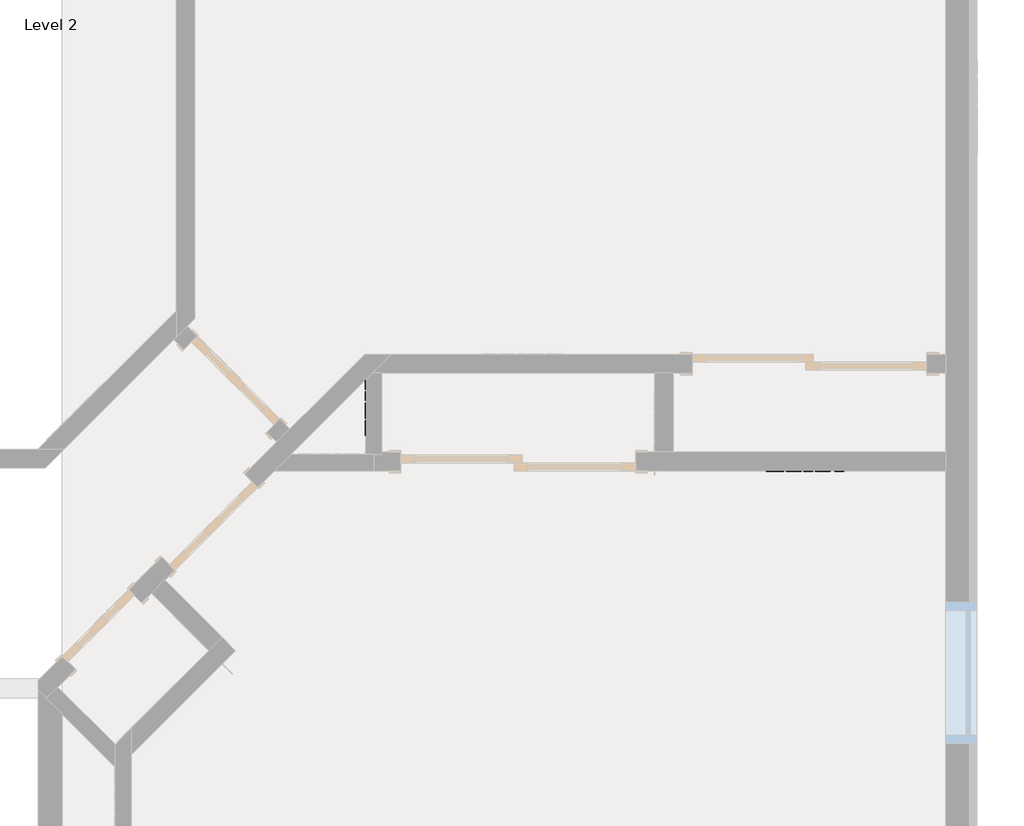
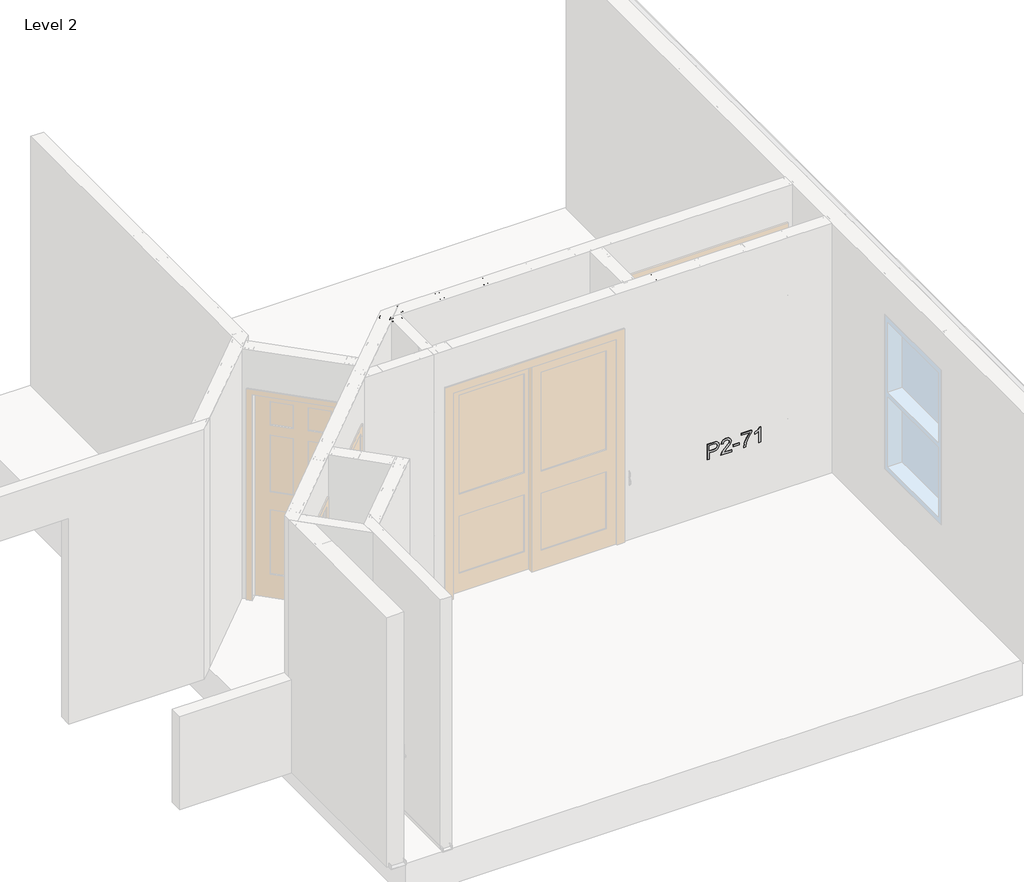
# One storey, part 41 of 46: 6 columns, 2 fasteners, 1 beam.
"""IFC4 building model written with IfcOpenShell, lengths in millimetres."""

from ifc_helpers import new_model, si_unit, point, frame, origin, place, context, project, spatial, circle_curve, ellipse_curve, trimmed, transform, mapped, element, save
from ifc_brep_helpers import plane_surface, extruded_surface, advanced_brep
from components import beam_350nf150_33_9bf1c67c, panellabel_18be6eab, panellabel_db9f150f

model = new_model("IFC4")

# Units and contexts
model_context = context("Model", 3, world=origin())
ifc_project = project(units=[si_unit("LENGTHUNIT", "METRE", prefix="MILLI")], contexts=[model_context])

# Site, building, storey
site = spatial("IfcSite", under=ifc_project)
building = spatial("IfcBuilding", under=site)
storey = spatial("IfcBuildingStorey", under=building, Name="Level 2", Elevation=3060.7)

# Beam
placement = place(None, origin())
beam_350nf150_33_shape = beam_350nf150_33_9bf1c67c(model_context)
element("IfcBeam", 1, ObjectType="BIMSF-SSMA-S : 350NF150-33", at=placement, inside=storey, context=model_context, shape_type="MappedRepresentation", body=[
    mapped(beam_350nf150_33_shape, transform((-5883.4515983, 10251.1207511, 3076.575), x_axis=(1.0000000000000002, 0.0, 0.0), y_axis=(0.0, 0.0, -1.0000000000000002), z_axis=(0.0, 1.0000000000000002, 0.0))),
])

# Columns
element("IfcColumn", 2, ObjectType="BIMSF-SSMA-S-Column : 350NF150-33", at=placement, inside=storey, context=model_context, shape_type="AdvancedBrep", body=[
    advanced_brep(
    [(-7039.3549045, 10251.1207511, 3061.5929687), (-6976.4931116, 10188.2589582, 3061.5929687), (-7003.43388, 10161.3181899, 3061.5929687), (-7007.4343478, 10165.3186576, 3061.5929687), (-7006.8104563, 10165.9425491, 3061.5929687), (-7003.43388, 10162.5659728, 3061.5929687), (-6977.7408946, 10188.2589582, 3061.5929687), (-7039.3549045, 10249.8729681, 3061.5929687), (-7065.0478899, 10224.1799827, 3061.5929687), (-7061.6713136, 10220.8034064, 3061.5929687), (-7062.2952051, 10220.1795149, 3061.5929687), (-7066.2956728, 10224.1799827, 3061.5929687), (-7039.3549045, 10251.1207511, 5523.6070313), (-6976.4931116, 10188.2589582, 5523.6070313), (-6998.9437519, 10210.7095985, 3671.1929688), (-7016.9042642, 10228.6701108, 3671.1929687), (-6998.9437519, 10210.7095985, 4890.3929687), (-7016.9042642, 10228.6701108, 4890.3929687), (-7003.43388, 10161.3181899, 5523.6070313), (-7007.4343478, 10165.3186576, 5523.6070313), (-7006.8104563, 10165.9425491, 5523.6070313), (-7003.43388, 10162.5659728, 5523.6070313), (-6977.7408946, 10188.2589582, 5523.6070313), (-7039.3549045, 10249.8729681, 5523.6070313), (-7017.5281557, 10228.0462193, 3671.1929687), (-6999.5676434, 10210.0857071, 3671.1929688), (-7017.5281557, 10228.0462193, 4890.3929687), (-6999.5676434, 10210.0857071, 4890.3929688), (-7065.0478899, 10224.1799827, 5523.6070313), (-7061.6713136, 10220.8034064, 5523.6070313), (-7062.2952051, 10220.1795149, 5523.6070313), (-7066.2956728, 10224.1799827, 5523.6070313)],
    [
        (0, 1),
        (1, 2),
        (2, 3),
        (3, 4),
        (4, 5),
        (5, 6),
        (6, 7),
        (7, 8),
        (8, 9),
        (9, 10),
        (10, 11),
        (11, 0),
        (0, 12),
        (12, 13),
        (13, 1),
        (14, 15, circle_curve(frame((-7007.9240081, 10219.6898547, 3671.1929688), z_axis=(-0.7071067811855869, -0.7071067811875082, 0.0), x_axis=(0.7071067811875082, -0.7071067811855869, 0.0)), 12.7)),
        (15, 14, circle_curve(frame((-7007.9240081, 10219.6898547, 3671.1929688), z_axis=(-0.7071067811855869, -0.7071067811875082, 0.0), x_axis=(0.7071067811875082, -0.7071067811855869, 0.0)), 12.7)),
        (16, 17, circle_curve(frame((-7007.9240081, 10219.6898547, 4890.3929687), z_axis=(-0.7071067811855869, -0.7071067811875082, 0.0), x_axis=(0.7071067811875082, -0.7071067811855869, 0.0)), 12.7)),
        (17, 16, circle_curve(frame((-7007.9240081, 10219.6898547, 4890.3929687), z_axis=(-0.7071067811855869, -0.7071067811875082, 0.0), x_axis=(0.7071067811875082, -0.7071067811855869, 0.0)), 12.7)),
        (13, 18),
        (18, 2),
        (18, 19),
        (19, 3),
        (19, 20),
        (20, 4),
        (20, 21),
        (21, 5),
        (21, 22),
        (22, 6),
        (22, 23),
        (23, 7),
        (24, 25, circle_curve(frame((-7008.5478995, 10219.0659632, 3671.1929687), z_axis=(0.7071067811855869, 0.7071067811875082, 0.0), x_axis=(0.7071067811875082, -0.7071067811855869, 0.0)), 12.7)),
        (25, 24, circle_curve(frame((-7008.5478995, 10219.0659632, 3671.1929688), z_axis=(0.7071067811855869, 0.7071067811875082, 0.0), x_axis=(0.7071067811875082, -0.7071067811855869, 0.0)), 12.7)),
        (26, 27, circle_curve(frame((-7008.5478995, 10219.0659632, 4890.3929687), z_axis=(0.7071067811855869, 0.7071067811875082, 0.0), x_axis=(0.7071067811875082, -0.7071067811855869, 0.0)), 12.7)),
        (27, 26, circle_curve(frame((-7008.5478995, 10219.0659632, 4890.3929687), z_axis=(0.7071067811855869, 0.7071067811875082, 0.0), x_axis=(0.7071067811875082, -0.7071067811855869, 0.0)), 12.7)),
        (23, 28),
        (28, 8),
        (28, 29),
        (29, 9),
        (29, 30),
        (30, 10),
        (30, 31),
        (31, 11),
        (31, 12),
        (24, 15),
        (14, 25),
        (26, 17),
        (16, 27),
    ],
    [
        plane_surface(frame((-7039.3549045, 10251.1207511, 3061.5929687), z_axis=(0.0, 0.0, -1.0000000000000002), x_axis=(0.7071067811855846, 0.7071067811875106, 0.0))),
        plane_surface(frame((-6976.4931116, 10188.2589582, 5523.6070313), z_axis=(0.7071067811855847, 0.7071067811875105, 0.0), x_axis=(0.0, 0.0, -1.0))),
        plane_surface(frame((-7003.43388, 10161.3181899, 5523.6070313), z_axis=(0.7071067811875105, -0.7071067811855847, 0.0), x_axis=(0.0, 0.0, -1.0))),
        plane_surface(frame((-7007.4343478, 10165.3186576, 5523.6070313), z_axis=(-0.7071067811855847, -0.7071067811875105, 0.0), x_axis=(0.0, 0.0, -1.0))),
        plane_surface(frame((-7006.8104563, 10165.9425491, 5523.6070313), z_axis=(-0.7071067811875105, 0.7071067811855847, 0.0), x_axis=(0.0, 0.0, -1.0))),
        plane_surface(frame((-7003.43388, 10162.5659728, 5523.6070313), z_axis=(0.7071067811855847, 0.7071067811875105, 0.0), x_axis=(0.0, 0.0, -1.0))),
        plane_surface(frame((-6977.7408946, 10188.2589582, 5523.6070313), z_axis=(-0.7071067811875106, 0.7071067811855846, 0.0), x_axis=(0.0, 0.0, -1.0))),
        plane_surface(frame((-7039.3549045, 10249.8729681, 5523.6070313), z_axis=(-0.7071067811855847, -0.7071067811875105, 0.0), x_axis=(0.0, 0.0, -1.0))),
        plane_surface(frame((-7065.0478899, 10224.1799827, 5523.6070313), z_axis=(0.7071067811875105, -0.7071067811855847, 0.0), x_axis=(0.0, 0.0, -1.0))),
        plane_surface(frame((-7061.6713136, 10220.8034064, 5523.6070313), z_axis=(0.7071067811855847, 0.7071067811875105, 0.0), x_axis=(0.0, 0.0, -1.0))),
        plane_surface(frame((-7062.2952051, 10220.1795149, 5523.6070313), z_axis=(0.7071067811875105, -0.7071067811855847, 0.0), x_axis=(0.0, 0.0, -1.0))),
        plane_surface(frame((-7066.2956728, 10224.1799827, 5523.6070313), z_axis=(-0.7071067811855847, -0.7071067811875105, 0.0), x_axis=(0.0, 0.0, -1.0))),
        plane_surface(frame((-7039.3549045, 10251.1207511, 5523.6070313), z_axis=(-0.7071067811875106, 0.7071067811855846, 0.0), x_axis=(0.0, 0.0, -1.0))),
        plane_surface(frame((-7039.3549045, 10251.1207511, 5523.6070313), z_axis=(0.0, 0.0, 1.0000000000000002), x_axis=(-0.7071067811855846, -0.7071067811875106, 0.0))),
        extruded_surface(trimmed(ellipse_curve(frame((-8762.3012312, 8465.3126315, 3671.1929688), z_axis=(0.7071067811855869, 0.7071067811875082, 0.0), x_axis=(0.7071067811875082, -0.7071067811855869, 0.0)), 12.7, 12.7), [point((-8771.2814873, 8474.2928876, 3671.1929688))], [point((-8753.3209751, 8456.3323754, 3671.1929688))], True, "CARTESIAN"), (-3481.8136779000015, -3481.8136779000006, 0.0), 4924.028124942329),
        extruded_surface(trimmed(ellipse_curve(frame((-8762.3012312, 8465.3126315, 3671.1929688), z_axis=(0.7071067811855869, 0.7071067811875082, 0.0), x_axis=(0.7071067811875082, -0.7071067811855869, 0.0)), 12.7, 12.7), [point((-8753.3209751, 8456.3323754, 3671.1929688))], [point((-8771.2814873, 8474.2928876, 3671.1929688))], True, "CARTESIAN"), (-3481.8136779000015, -3481.8136779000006, 0.0), 4924.028124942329),
        extruded_surface(trimmed(ellipse_curve(frame((-8762.3012312, 8465.3126315, 4890.3929687), z_axis=(0.7071067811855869, 0.7071067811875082, 0.0), x_axis=(0.7071067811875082, -0.7071067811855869, 0.0)), 12.7, 12.7), [point((-8771.2814873, 8474.2928876, 4890.3929687))], [point((-8753.3209751, 8456.3323754, 4890.3929687))], True, "CARTESIAN"), (-3481.8136779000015, -3481.8136779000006, 0.0), 4924.028124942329),
        extruded_surface(trimmed(ellipse_curve(frame((-8762.3012312, 8465.3126315, 4890.3929687), z_axis=(0.7071067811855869, 0.7071067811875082, 0.0), x_axis=(0.7071067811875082, -0.7071067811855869, 0.0)), 12.7, 12.7), [point((-8753.3209751, 8456.3323754, 4890.3929687))], [point((-8771.2814873, 8474.2928876, 4890.3929687))], True, "CARTESIAN"), (-3481.8136779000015, -3481.8136779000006, 0.0), 4924.028124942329),
    ],
    [
        (0, [[1, 2, 3, 4, 5, 6, 7, 8, 9, 10, 11, 12]]),
        (1, [[-1, 13, 14, 15], [16, 17], [18, 19]]),
        (2, [[-2, -15, 20, 21]]),
        (3, [[-3, -21, 22, 23]]),
        (4, [[-4, -23, 24, 25]]),
        (5, [[-5, -25, 26, 27]]),
        (6, [[-6, -27, 28, 29]]),
        (7, [[-7, -29, 30, 31], [32, 33], [34, 35]]),
        (8, [[-8, -31, 36, 37]]),
        (9, [[-9, -37, 38, 39]]),
        (10, [[-10, -39, 40, 41]]),
        (11, [[-11, -41, 42, 43]]),
        (12, [[-12, -43, 44, -13]]),
        (13, [[-14, -44, -42, -40, -38, -36, -30, -28, -26, -24, -22, -20]]),
        (14, [[45, -16, 46, -32]]),
        (15, [[-45, -33, -46, -17]]),
        (16, [[47, -18, 48, -34]]),
        (17, [[-47, -35, -48, -19]]),
    ],
),
])
element("IfcColumn", 3, ObjectType="BIMSF-SSMA-S-Column : 350NF150-33", at=placement, inside=storey, context=model_context, shape_type="AdvancedBrep", body=[
    advanced_brep(
    [(-6891.5618616, 10206.6707511, 3061.5929687), (-6891.5618616, 10295.5707511, 3061.5929687), (-6853.4618616, 10295.5707511, 3061.5929687), (-6853.4618616, 10289.9132353, 3061.5929687), (-6854.3441774, 10289.9132353, 3061.5929687), (-6854.3441774, 10294.6884353, 3061.5929687), (-6890.6795459, 10294.6884353, 3061.5929687), (-6890.6795459, 10207.5530669, 3061.5929687), (-6854.3441774, 10207.5530669, 3061.5929687), (-6854.3441774, 10212.3282669, 3061.5929687), (-6853.4618616, 10212.3282669, 3061.5929687), (-6853.4618616, 10206.6707511, 3061.5929687), (-6891.5618616, 10206.6707511, 5523.6070313), (-6891.5618616, 10295.5707511, 5523.6070313), (-6891.5618616, 10263.8207511, 3671.1929687), (-6891.5618616, 10238.4207511, 3671.1929688), (-6891.5618616, 10263.8207511, 4890.3929687), (-6891.5618616, 10238.4207511, 4890.3929687), (-6853.4618616, 10295.5707511, 5523.6070313), (-6853.4618616, 10289.9132353, 5523.6070313), (-6854.3441774, 10289.9132353, 5523.6070313), (-6854.3441774, 10294.6884353, 5523.6070313), (-6890.6795459, 10294.6884353, 5523.6070313), (-6890.6795459, 10207.5530669, 5523.6070313), (-6890.6795459, 10238.4207511, 3671.1929688), (-6890.6795459, 10263.8207511, 3671.1929688), (-6890.6795459, 10238.4207511, 4890.3929687), (-6890.6795459, 10263.8207511, 4890.3929687), (-6854.3441774, 10207.5530669, 5523.6070313), (-6854.3441774, 10212.3282669, 5523.6070313), (-6853.4618616, 10212.3282669, 5523.6070313), (-6853.4618616, 10206.6707511, 5523.6070313)],
    [
        (0, 1),
        (1, 2),
        (2, 3),
        (3, 4),
        (4, 5),
        (5, 6),
        (6, 7),
        (7, 8),
        (8, 9),
        (9, 10),
        (10, 11),
        (11, 0),
        (0, 12),
        (12, 13),
        (13, 1),
        (14, 15, circle_curve(frame((-6891.5618616, 10251.1207511, 3671.1929688), z_axis=(1.0, 0.0, 0.0), x_axis=(0.0, 1.0, 0.0)), 12.7)),
        (15, 14, circle_curve(frame((-6891.5618616, 10251.1207511, 3671.1929687), z_axis=(1.0, 0.0, 0.0), x_axis=(0.0, 1.0, 0.0)), 12.7)),
        (16, 17, circle_curve(frame((-6891.5618616, 10251.1207511, 4890.3929687), z_axis=(1.0, 0.0, 0.0), x_axis=(0.0, 1.0, 0.0)), 12.7)),
        (17, 16, circle_curve(frame((-6891.5618616, 10251.1207511, 4890.3929687), z_axis=(1.0, 0.0, 0.0), x_axis=(0.0, 1.0, 0.0)), 12.7)),
        (13, 18),
        (18, 2),
        (18, 19),
        (19, 3),
        (19, 20),
        (20, 4),
        (20, 21),
        (21, 5),
        (21, 22),
        (22, 6),
        (22, 23),
        (23, 7),
        (24, 25, circle_curve(frame((-6890.6795459, 10251.1207511, 3671.1929688), z_axis=(-1.0, 0.0, 0.0), x_axis=(0.0, 1.0, 0.0)), 12.7)),
        (25, 24, circle_curve(frame((-6890.6795459, 10251.1207511, 3671.1929688), z_axis=(-1.0, 0.0, 0.0), x_axis=(0.0, 1.0, 0.0)), 12.7)),
        (26, 27, circle_curve(frame((-6890.6795459, 10251.1207511, 4890.3929687), z_axis=(-1.0, 0.0, 0.0), x_axis=(0.0, 1.0, 0.0)), 12.7)),
        (27, 26, circle_curve(frame((-6890.6795459, 10251.1207511, 4890.3929687), z_axis=(-1.0, 0.0, 0.0), x_axis=(0.0, 1.0, 0.0)), 12.7)),
        (23, 28),
        (28, 8),
        (28, 29),
        (29, 9),
        (29, 30),
        (30, 10),
        (30, 31),
        (31, 11),
        (31, 12),
        (24, 15),
        (14, 25),
        (26, 17),
        (16, 27),
    ],
    [
        plane_surface(frame((-6891.5618616, 10206.6707511, 3061.5929687), z_axis=(0.0, 0.0, -1.0), x_axis=(-1.0, 0.0, 0.0))),
        plane_surface(frame((-6891.5618616, 10295.5707511, 5523.6070313), z_axis=(-1.0, 0.0, 0.0), x_axis=(0.0, 0.0, -1.0))),
        plane_surface(frame((-6853.4618616, 10295.5707511, 5523.6070313), z_axis=(0.0, 1.0, 0.0), x_axis=(0.0, 0.0, -1.0))),
        plane_surface(frame((-6853.4618616, 10289.9132353, 5523.6070313), z_axis=(1.0, 0.0, 0.0), x_axis=(0.0, 0.0, -1.0))),
        plane_surface(frame((-6854.3441774, 10289.9132353, 5523.6070313), z_axis=(0.0, -1.0, 0.0), x_axis=(0.0, 0.0, -1.0))),
        plane_surface(frame((-6854.3441774, 10294.6884353, 5523.6070313), z_axis=(-1.0, 0.0, 0.0), x_axis=(0.0, 0.0, -1.0))),
        plane_surface(frame((-6890.6795459, 10294.6884353, 5523.6070313), z_axis=(0.0, -1.0, 0.0), x_axis=(0.0, 0.0, -1.0))),
        plane_surface(frame((-6890.6795459, 10207.5530669, 5523.6070313), z_axis=(1.0, 0.0, 0.0), x_axis=(0.0, 0.0, -1.0))),
        plane_surface(frame((-6854.3441774, 10207.5530669, 5523.6070313), z_axis=(0.0, 1.0, 0.0), x_axis=(0.0, 0.0, -1.0))),
        plane_surface(frame((-6854.3441774, 10212.3282669, 5523.6070313), z_axis=(-1.0, 0.0, 0.0), x_axis=(0.0, 0.0, -1.0))),
        plane_surface(frame((-6853.4618616, 10212.3282669, 5523.6070313), z_axis=(0.0, 1.0, 0.0), x_axis=(0.0, 0.0, -1.0))),
        plane_surface(frame((-6853.4618616, 10206.6707511, 5523.6070313), z_axis=(1.0, 0.0, 0.0), x_axis=(0.0, 0.0, -1.0))),
        plane_surface(frame((-6891.5618616, 10206.6707511, 5523.6070313), z_axis=(0.0, -1.0, 0.0), x_axis=(0.0, 0.0, -1.0))),
        plane_surface(frame((-6891.5618616, 10206.6707511, 5523.6070313), z_axis=(0.0, 0.0, 1.0), x_axis=(1.0, 0.0, 0.0))),
        extruded_surface(trimmed(ellipse_curve(frame((-4410.4977991, 10251.1207511, 3671.1929688), z_axis=(-1.0, 0.0, 0.0), x_axis=(0.0, 1.0, 0.0)), 12.7, 12.7), [point((-4410.4977991, 10238.4207511, 3671.1929688))], [point((-4410.4977991, 10263.8207511, 3671.1929688))], True, "CARTESIAN"), (4924.028125, 0.0, 0.0), 4924.028125),
        extruded_surface(trimmed(ellipse_curve(frame((-4410.4977991, 10251.1207511, 3671.1929688), z_axis=(-1.0, 0.0, 0.0), x_axis=(0.0, 1.0, 0.0)), 12.7, 12.7), [point((-4410.4977991, 10263.8207511, 3671.1929688))], [point((-4410.4977991, 10238.4207511, 3671.1929688))], True, "CARTESIAN"), (4924.028125, 0.0, 0.0), 4924.028125),
        extruded_surface(trimmed(ellipse_curve(frame((-4410.4977991, 10251.1207511, 4890.3929687), z_axis=(-1.0, 0.0, 0.0), x_axis=(0.0, 1.0, 0.0)), 12.7, 12.7), [point((-4410.4977991, 10238.4207511, 4890.3929687))], [point((-4410.4977991, 10263.8207511, 4890.3929687))], True, "CARTESIAN"), (4924.028125, 0.0, 0.0), 4924.028125),
        extruded_surface(trimmed(ellipse_curve(frame((-4410.4977991, 10251.1207511, 4890.3929687), z_axis=(-1.0, 0.0, 0.0), x_axis=(0.0, 1.0, 0.0)), 12.7, 12.7), [point((-4410.4977991, 10263.8207511, 4890.3929687))], [point((-4410.4977991, 10238.4207511, 4890.3929687))], True, "CARTESIAN"), (4924.028125, 0.0, 0.0), 4924.028125),
    ],
    [
        (0, [[1, 2, 3, 4, 5, 6, 7, 8, 9, 10, 11, 12]]),
        (1, [[-1, 13, 14, 15], [16, 17], [18, 19]]),
        (2, [[-2, -15, 20, 21]]),
        (3, [[-3, -21, 22, 23]]),
        (4, [[-4, -23, 24, 25]]),
        (5, [[-5, -25, 26, 27]]),
        (6, [[-6, -27, 28, 29]]),
        (7, [[-7, -29, 30, 31], [32, 33], [34, 35]]),
        (8, [[-8, -31, 36, 37]]),
        (9, [[-9, -37, 38, 39]]),
        (10, [[-10, -39, 40, 41]]),
        (11, [[-11, -41, 42, 43]]),
        (12, [[-12, -43, 44, -13]]),
        (13, [[-14, -44, -42, -40, -38, -36, -30, -28, -26, -24, -22, -20]]),
        (14, [[45, -16, 46, -32]]),
        (15, [[-45, -33, -46, -17]]),
        (16, [[47, -18, 48, -34]]),
        (17, [[-47, -35, -48, -19]]),
    ],
),
])
element("IfcColumn", 4, ObjectType="BIMSF-SSMA-S-Column : 350NF150-33", at=placement, inside=storey, context=model_context, shape_type="AdvancedBrep", body=[
    advanced_brep(
    [(-6504.2118616, 10206.6707511, 3061.5929687), (-6504.2118616, 10295.5707511, 3061.5929687), (-6466.1118616, 10295.5707511, 3061.5929687), (-6466.1118616, 10289.9132353, 3061.5929687), (-6466.9941774, 10289.9132353, 3061.5929687), (-6466.9941774, 10294.6884353, 3061.5929687), (-6503.3295459, 10294.6884353, 3061.5929687), (-6503.3295459, 10207.5530669, 3061.5929687), (-6466.9941774, 10207.5530669, 3061.5929687), (-6466.9941774, 10212.3282669, 3061.5929687), (-6466.1118616, 10212.3282669, 3061.5929687), (-6466.1118616, 10206.6707511, 3061.5929687), (-6504.2118616, 10206.6707511, 5523.6070313), (-6504.2118616, 10295.5707511, 5523.6070313), (-6504.2118616, 10263.8207511, 3671.1929687), (-6504.2118616, 10238.4207511, 3671.1929687), (-6504.2118616, 10263.8207511, 4890.3929687), (-6504.2118616, 10238.4207511, 4890.3929687), (-6466.1118616, 10295.5707511, 5523.6070313), (-6466.1118616, 10289.9132353, 5523.6070313), (-6466.9941774, 10289.9132353, 5523.6070313), (-6466.9941774, 10294.6884353, 5523.6070313), (-6503.3295459, 10294.6884353, 5523.6070313), (-6503.3295459, 10207.5530669, 5523.6070313), (-6503.3295459, 10238.4207511, 3671.1929688), (-6503.3295459, 10263.8207511, 3671.1929688), (-6503.3295459, 10238.4207511, 4890.3929687), (-6503.3295459, 10263.8207511, 4890.3929687), (-6466.9941774, 10207.5530669, 5523.6070313), (-6466.9941774, 10212.3282669, 5523.6070313), (-6466.1118616, 10212.3282669, 5523.6070313), (-6466.1118616, 10206.6707511, 5523.6070313)],
    [
        (0, 1),
        (1, 2),
        (2, 3),
        (3, 4),
        (4, 5),
        (5, 6),
        (6, 7),
        (7, 8),
        (8, 9),
        (9, 10),
        (10, 11),
        (11, 0),
        (0, 12),
        (12, 13),
        (13, 1),
        (14, 15, circle_curve(frame((-6504.2118616, 10251.1207511, 3671.1929687), z_axis=(1.0, 0.0, 0.0), x_axis=(0.0, 1.0, 0.0)), 12.7)),
        (15, 14, circle_curve(frame((-6504.2118616, 10251.1207511, 3671.1929687), z_axis=(1.0, 0.0, 0.0), x_axis=(0.0, 1.0, 0.0)), 12.7)),
        (16, 17, circle_curve(frame((-6504.2118616, 10251.1207511, 4890.3929687), z_axis=(1.0, 0.0, 0.0), x_axis=(0.0, 1.0, 0.0)), 12.7)),
        (17, 16, circle_curve(frame((-6504.2118616, 10251.1207511, 4890.3929687), z_axis=(1.0, 0.0, 0.0), x_axis=(0.0, 1.0, 0.0)), 12.7)),
        (13, 18),
        (18, 2),
        (18, 19),
        (19, 3),
        (19, 20),
        (20, 4),
        (20, 21),
        (21, 5),
        (21, 22),
        (22, 6),
        (22, 23),
        (23, 7),
        (24, 25, circle_curve(frame((-6503.3295459, 10251.1207511, 3671.1929687), z_axis=(-1.0, 0.0, 0.0), x_axis=(0.0, 1.0, 0.0)), 12.7)),
        (25, 24, circle_curve(frame((-6503.3295459, 10251.1207511, 3671.1929687), z_axis=(-1.0, 0.0, 0.0), x_axis=(0.0, 1.0, 0.0)), 12.7)),
        (26, 27, circle_curve(frame((-6503.3295459, 10251.1207511, 4890.3929687), z_axis=(-1.0, 0.0, 0.0), x_axis=(0.0, 1.0, 0.0)), 12.7)),
        (27, 26, circle_curve(frame((-6503.3295459, 10251.1207511, 4890.3929687), z_axis=(-1.0, 0.0, 0.0), x_axis=(0.0, 1.0, 0.0)), 12.7)),
        (23, 28),
        (28, 8),
        (28, 29),
        (29, 9),
        (29, 30),
        (30, 10),
        (30, 31),
        (31, 11),
        (31, 12),
        (24, 15),
        (14, 25),
        (26, 17),
        (16, 27),
    ],
    [
        plane_surface(frame((-6504.2118616, 10206.6707511, 3061.5929687), z_axis=(0.0, 0.0, -1.0), x_axis=(-1.0, 0.0, 0.0))),
        plane_surface(frame((-6504.2118616, 10295.5707511, 5523.6070313), z_axis=(-1.0, 0.0, 0.0), x_axis=(0.0, 0.0, -1.0))),
        plane_surface(frame((-6466.1118616, 10295.5707511, 5523.6070313), z_axis=(0.0, 1.0, 0.0), x_axis=(0.0, 0.0, -1.0))),
        plane_surface(frame((-6466.1118616, 10289.9132353, 5523.6070313), z_axis=(1.0, 0.0, 0.0), x_axis=(0.0, 0.0, -1.0))),
        plane_surface(frame((-6466.9941774, 10289.9132353, 5523.6070313), z_axis=(0.0, -1.0, 0.0), x_axis=(0.0, 0.0, -1.0))),
        plane_surface(frame((-6466.9941774, 10294.6884353, 5523.6070313), z_axis=(-1.0, 0.0, 0.0), x_axis=(0.0, 0.0, -1.0))),
        plane_surface(frame((-6503.3295459, 10294.6884353, 5523.6070313), z_axis=(0.0, -1.0, 0.0), x_axis=(0.0, 0.0, -1.0))),
        plane_surface(frame((-6503.3295459, 10207.5530669, 5523.6070313), z_axis=(1.0, 0.0, 0.0), x_axis=(0.0, 0.0, -1.0))),
        plane_surface(frame((-6466.9941774, 10207.5530669, 5523.6070313), z_axis=(0.0, 1.0, 0.0), x_axis=(0.0, 0.0, -1.0))),
        plane_surface(frame((-6466.9941774, 10212.3282669, 5523.6070313), z_axis=(-1.0, 0.0, 0.0), x_axis=(0.0, 0.0, -1.0))),
        plane_surface(frame((-6466.1118616, 10212.3282669, 5523.6070313), z_axis=(0.0, 1.0, 0.0), x_axis=(0.0, 0.0, -1.0))),
        plane_surface(frame((-6466.1118616, 10206.6707511, 5523.6070313), z_axis=(1.0, 0.0, 0.0), x_axis=(0.0, 0.0, -1.0))),
        plane_surface(frame((-6504.2118616, 10206.6707511, 5523.6070313), z_axis=(0.0, -1.0, 0.0), x_axis=(0.0, 0.0, -1.0))),
        plane_surface(frame((-6504.2118616, 10206.6707511, 5523.6070313), z_axis=(0.0, 0.0, 1.0), x_axis=(1.0, 0.0, 0.0))),
        extruded_surface(trimmed(ellipse_curve(frame((-4023.1477991, 10251.1207511, 3671.1929688), z_axis=(-1.0, 0.0, 0.0), x_axis=(0.0, 1.0, 0.0)), 12.7, 12.7), [point((-4023.1477991, 10238.4207511, 3671.1929688))], [point((-4023.1477991, 10263.8207511, 3671.1929688))], True, "CARTESIAN"), (4924.028125, 0.0, 0.0), 4924.028125),
        extruded_surface(trimmed(ellipse_curve(frame((-4023.1477991, 10251.1207511, 3671.1929688), z_axis=(-1.0, 0.0, 0.0), x_axis=(0.0, 1.0, 0.0)), 12.7, 12.7), [point((-4023.1477991, 10263.8207511, 3671.1929688))], [point((-4023.1477991, 10238.4207511, 3671.1929688))], True, "CARTESIAN"), (4924.028125, 0.0, 0.0), 4924.028125),
        extruded_surface(trimmed(ellipse_curve(frame((-4023.1477991, 10251.1207511, 4890.3929687), z_axis=(-1.0, 0.0, 0.0), x_axis=(0.0, 1.0, 0.0)), 12.7, 12.7), [point((-4023.1477991, 10238.4207511, 4890.3929687))], [point((-4023.1477991, 10263.8207511, 4890.3929687))], True, "CARTESIAN"), (4924.028125, 0.0, 0.0), 4924.028125),
        extruded_surface(trimmed(ellipse_curve(frame((-4023.1477991, 10251.1207511, 4890.3929687), z_axis=(-1.0, 0.0, 0.0), x_axis=(0.0, 1.0, 0.0)), 12.7, 12.7), [point((-4023.1477991, 10263.8207511, 4890.3929687))], [point((-4023.1477991, 10238.4207511, 4890.3929687))], True, "CARTESIAN"), (4924.028125, 0.0, 0.0), 4924.028125),
    ],
    [
        (0, [[1, 2, 3, 4, 5, 6, 7, 8, 9, 10, 11, 12]]),
        (1, [[-1, 13, 14, 15], [16, 17], [18, 19]]),
        (2, [[-2, -15, 20, 21]]),
        (3, [[-3, -21, 22, 23]]),
        (4, [[-4, -23, 24, 25]]),
        (5, [[-5, -25, 26, 27]]),
        (6, [[-6, -27, 28, 29]]),
        (7, [[-7, -29, 30, 31], [32, 33], [34, 35]]),
        (8, [[-8, -31, 36, 37]]),
        (9, [[-9, -37, 38, 39]]),
        (10, [[-10, -39, 40, 41]]),
        (11, [[-11, -41, 42, 43]]),
        (12, [[-12, -43, 44, -13]]),
        (13, [[-14, -44, -42, -40, -38, -36, -30, -28, -26, -24, -22, -20]]),
        (14, [[45, -16, 46, -32]]),
        (15, [[-45, -33, -46, -17]]),
        (16, [[47, -18, 48, -34]]),
        (17, [[-47, -35, -48, -19]]),
    ],
),
])
element("IfcColumn", 5, ObjectType="BIMSF-SSMA-S-Column : 350NF150-33", at=placement, inside=storey, context=model_context, shape_type="AdvancedBrep", body=[
    advanced_brep(
    [(-6097.8118616, 10206.6707511, 3061.5929687), (-6097.8118616, 10295.5707511, 3061.5929687), (-6059.7118616, 10295.5707511, 3061.5929687), (-6059.7118616, 10289.9132353, 3061.5929687), (-6060.5941774, 10289.9132353, 3061.5929687), (-6060.5941774, 10294.6884353, 3061.5929687), (-6096.9295459, 10294.6884353, 3061.5929687), (-6096.9295459, 10207.5530669, 3061.5929687), (-6060.5941774, 10207.5530669, 3061.5929687), (-6060.5941774, 10212.3282669, 3061.5929687), (-6059.7118616, 10212.3282669, 3061.5929687), (-6059.7118616, 10206.6707511, 3061.5929687), (-6097.8118616, 10206.6707511, 5523.6070313), (-6097.8118616, 10295.5707511, 5523.6070313), (-6097.8118616, 10263.8207511, 3671.1929687), (-6097.8118616, 10238.4207511, 3671.1929687), (-6097.8118616, 10263.8207511, 4890.3929687), (-6097.8118616, 10238.4207511, 4890.3929687), (-6059.7118616, 10295.5707511, 5523.6070313), (-6059.7118616, 10289.9132353, 5523.6070313), (-6060.5941774, 10289.9132353, 5523.6070313), (-6060.5941774, 10294.6884353, 5523.6070313), (-6096.9295459, 10294.6884353, 5523.6070313), (-6096.9295459, 10207.5530669, 5523.6070313), (-6096.9295459, 10238.4207511, 3671.1929688), (-6096.9295459, 10263.8207511, 3671.1929688), (-6096.9295459, 10238.4207511, 4890.3929687), (-6096.9295459, 10263.8207511, 4890.3929687), (-6060.5941774, 10207.5530669, 5523.6070313), (-6060.5941774, 10212.3282669, 5523.6070313), (-6059.7118616, 10212.3282669, 5523.6070313), (-6059.7118616, 10206.6707511, 5523.6070313)],
    [
        (0, 1),
        (1, 2),
        (2, 3),
        (3, 4),
        (4, 5),
        (5, 6),
        (6, 7),
        (7, 8),
        (8, 9),
        (9, 10),
        (10, 11),
        (11, 0),
        (0, 12),
        (12, 13),
        (13, 1),
        (14, 15, circle_curve(frame((-6097.8118616, 10251.1207511, 3671.1929687), z_axis=(1.0, 0.0, 0.0), x_axis=(0.0, 1.0, 0.0)), 12.7)),
        (15, 14, circle_curve(frame((-6097.8118616, 10251.1207511, 3671.1929687), z_axis=(1.0, 0.0, 0.0), x_axis=(0.0, 1.0, 0.0)), 12.7)),
        (16, 17, circle_curve(frame((-6097.8118616, 10251.1207511, 4890.3929687), z_axis=(1.0, 0.0, 0.0), x_axis=(0.0, 1.0, 0.0)), 12.7)),
        (17, 16, circle_curve(frame((-6097.8118616, 10251.1207511, 4890.3929687), z_axis=(1.0, 0.0, 0.0), x_axis=(0.0, 1.0, 0.0)), 12.7)),
        (13, 18),
        (18, 2),
        (18, 19),
        (19, 3),
        (19, 20),
        (20, 4),
        (20, 21),
        (21, 5),
        (21, 22),
        (22, 6),
        (22, 23),
        (23, 7),
        (24, 25, circle_curve(frame((-6096.9295459, 10251.1207511, 3671.1929687), z_axis=(-1.0, 0.0, 0.0), x_axis=(0.0, 1.0, 0.0)), 12.7)),
        (25, 24, circle_curve(frame((-6096.9295459, 10251.1207511, 3671.1929687), z_axis=(-1.0, 0.0, 0.0), x_axis=(0.0, 1.0, 0.0)), 12.7)),
        (26, 27, circle_curve(frame((-6096.9295459, 10251.1207511, 4890.3929687), z_axis=(-1.0, 0.0, 0.0), x_axis=(0.0, 1.0, 0.0)), 12.7)),
        (27, 26, circle_curve(frame((-6096.9295459, 10251.1207511, 4890.3929687), z_axis=(-1.0, 0.0, 0.0), x_axis=(0.0, 1.0, 0.0)), 12.7)),
        (23, 28),
        (28, 8),
        (28, 29),
        (29, 9),
        (29, 30),
        (30, 10),
        (30, 31),
        (31, 11),
        (31, 12),
        (24, 15),
        (14, 25),
        (26, 17),
        (16, 27),
    ],
    [
        plane_surface(frame((-6097.8118616, 10206.6707511, 3061.5929687), z_axis=(0.0, 0.0, -1.0), x_axis=(-1.0, 0.0, 0.0))),
        plane_surface(frame((-6097.8118616, 10295.5707511, 5523.6070313), z_axis=(-1.0, 0.0, 0.0), x_axis=(0.0, 0.0, -1.0))),
        plane_surface(frame((-6059.7118616, 10295.5707511, 5523.6070313), z_axis=(0.0, 1.0, 0.0), x_axis=(0.0, 0.0, -1.0))),
        plane_surface(frame((-6059.7118616, 10289.9132353, 5523.6070313), z_axis=(1.0, 0.0, 0.0), x_axis=(0.0, 0.0, -1.0))),
        plane_surface(frame((-6060.5941774, 10289.9132353, 5523.6070313), z_axis=(0.0, -1.0, 0.0), x_axis=(0.0, 0.0, -1.0))),
        plane_surface(frame((-6060.5941774, 10294.6884353, 5523.6070313), z_axis=(-1.0, 0.0, 0.0), x_axis=(0.0, 0.0, -1.0))),
        plane_surface(frame((-6096.9295459, 10294.6884353, 5523.6070313), z_axis=(0.0, -1.0, 0.0), x_axis=(0.0, 0.0, -1.0))),
        plane_surface(frame((-6096.9295459, 10207.5530669, 5523.6070313), z_axis=(1.0, 0.0, 0.0), x_axis=(0.0, 0.0, -1.0))),
        plane_surface(frame((-6060.5941774, 10207.5530669, 5523.6070313), z_axis=(0.0, 1.0, 0.0), x_axis=(0.0, 0.0, -1.0))),
        plane_surface(frame((-6060.5941774, 10212.3282669, 5523.6070313), z_axis=(-1.0, 0.0, 0.0), x_axis=(0.0, 0.0, -1.0))),
        plane_surface(frame((-6059.7118616, 10212.3282669, 5523.6070313), z_axis=(0.0, 1.0, 0.0), x_axis=(0.0, 0.0, -1.0))),
        plane_surface(frame((-6059.7118616, 10206.6707511, 5523.6070313), z_axis=(1.0, 0.0, 0.0), x_axis=(0.0, 0.0, -1.0))),
        plane_surface(frame((-6097.8118616, 10206.6707511, 5523.6070313), z_axis=(0.0, -1.0, 0.0), x_axis=(0.0, 0.0, -1.0))),
        plane_surface(frame((-6097.8118616, 10206.6707511, 5523.6070313), z_axis=(0.0, 0.0, 1.0), x_axis=(1.0, 0.0, 0.0))),
        extruded_surface(trimmed(ellipse_curve(frame((-3616.7477991, 10251.1207511, 3671.1929688), z_axis=(-1.0, 0.0, 0.0), x_axis=(0.0, 1.0, 0.0)), 12.7, 12.7), [point((-3616.7477991, 10238.4207511, 3671.1929688))], [point((-3616.7477991, 10263.8207511, 3671.1929688))], True, "CARTESIAN"), (4924.028125, 0.0, 0.0), 4924.028125),
        extruded_surface(trimmed(ellipse_curve(frame((-3616.7477991, 10251.1207511, 3671.1929688), z_axis=(-1.0, 0.0, 0.0), x_axis=(0.0, 1.0, 0.0)), 12.7, 12.7), [point((-3616.7477991, 10263.8207511, 3671.1929688))], [point((-3616.7477991, 10238.4207511, 3671.1929688))], True, "CARTESIAN"), (4924.028125, 0.0, 0.0), 4924.028125),
        extruded_surface(trimmed(ellipse_curve(frame((-3616.7477991, 10251.1207511, 4890.3929687), z_axis=(-1.0, 0.0, 0.0), x_axis=(0.0, 1.0, 0.0)), 12.7, 12.7), [point((-3616.7477991, 10238.4207511, 4890.3929687))], [point((-3616.7477991, 10263.8207511, 4890.3929687))], True, "CARTESIAN"), (4924.028125, 0.0, 0.0), 4924.028125),
        extruded_surface(trimmed(ellipse_curve(frame((-3616.7477991, 10251.1207511, 4890.3929687), z_axis=(-1.0, 0.0, 0.0), x_axis=(0.0, 1.0, 0.0)), 12.7, 12.7), [point((-3616.7477991, 10263.8207511, 4890.3929687))], [point((-3616.7477991, 10238.4207511, 4890.3929687))], True, "CARTESIAN"), (4924.028125, 0.0, 0.0), 4924.028125),
    ],
    [
        (0, [[1, 2, 3, 4, 5, 6, 7, 8, 9, 10, 11, 12]]),
        (1, [[-1, 13, 14, 15], [16, 17], [18, 19]]),
        (2, [[-2, -15, 20, 21]]),
        (3, [[-3, -21, 22, 23]]),
        (4, [[-4, -23, 24, 25]]),
        (5, [[-5, -25, 26, 27]]),
        (6, [[-6, -27, 28, 29]]),
        (7, [[-7, -29, 30, 31], [32, 33], [34, 35]]),
        (8, [[-8, -31, 36, 37]]),
        (9, [[-9, -37, 38, 39]]),
        (10, [[-10, -39, 40, 41]]),
        (11, [[-11, -41, 42, 43]]),
        (12, [[-12, -43, 44, -13]]),
        (13, [[-14, -44, -42, -40, -38, -36, -30, -28, -26, -24, -22, -20]]),
        (14, [[45, -16, 46, -32]]),
        (15, [[-45, -33, -46, -17]]),
        (16, [[47, -18, 48, -34]]),
        (17, [[-47, -35, -48, -19]]),
    ],
),
])
element("IfcColumn", 6, ObjectType="BIMSF-SSMA-S-Column : 350NF150-33", at=placement, inside=storey, context=model_context, shape_type="AdvancedBrep", body=[
    advanced_brep(
    [(-4818.1913349, 9659.6535298, 3061.5929687), (-4818.1913349, 9570.7535298, 3061.5929687), (-4856.2913349, 9570.7535298, 3061.5929687), (-4856.2913349, 9576.4110455, 3061.5929687), (-4855.4090191, 9576.4110455, 3061.5929687), (-4855.4090191, 9571.6358455, 3061.5929687), (-4819.0736507, 9571.6358455, 3061.5929687), (-4819.0736507, 9658.771214, 3061.5929687), (-4855.4090191, 9658.771214, 3061.5929687), (-4855.4090191, 9653.996014, 3061.5929687), (-4856.2913349, 9653.996014, 3061.5929687), (-4856.2913349, 9659.6535298, 3061.5929687), (-4818.1913349, 9659.6535298, 5523.6070313), (-4818.1913349, 9570.7535298, 5523.6070313), (-4818.1913349, 9602.5035298, 3671.1929688), (-4818.1913349, 9627.9035298, 3671.1929688), (-4818.1913349, 9602.5035298, 4890.3929687), (-4818.1913349, 9627.9035298, 4890.3929688), (-4856.2913349, 9570.7535298, 5523.6070313), (-4856.2913349, 9576.4110455, 5523.6070313), (-4855.4090191, 9576.4110455, 5523.6070313), (-4855.4090191, 9571.6358455, 5523.6070313), (-4819.0736507, 9571.6358455, 5523.6070313), (-4819.0736507, 9658.771214, 5523.6070313), (-4819.0736507, 9627.9035298, 3671.1929688), (-4819.0736507, 9602.5035298, 3671.1929688), (-4819.0736507, 9627.9035298, 4890.3929688), (-4819.0736507, 9602.5035298, 4890.3929687), (-4855.4090191, 9658.771214, 5523.6070313), (-4855.4090191, 9653.996014, 5523.6070313), (-4856.2913349, 9653.996014, 5523.6070313), (-4856.2913349, 9659.6535298, 5523.6070313)],
    [
        (0, 1),
        (1, 2),
        (2, 3),
        (3, 4),
        (4, 5),
        (5, 6),
        (6, 7),
        (7, 8),
        (8, 9),
        (9, 10),
        (10, 11),
        (11, 0),
        (0, 12),
        (12, 13),
        (13, 1),
        (14, 15, circle_curve(frame((-4818.1913349, 9615.2035298, 3671.1929688), z_axis=(-1.0, 0.0, 0.0), x_axis=(0.0, -1.0, 0.0)), 12.7)),
        (15, 14, circle_curve(frame((-4818.1913349, 9615.2035298, 3671.1929687), z_axis=(-1.0, 0.0, 0.0), x_axis=(0.0, -1.0, 0.0)), 12.7)),
        (16, 17, circle_curve(frame((-4818.1913349, 9615.2035298, 4890.3929687), z_axis=(-1.0, 0.0, 0.0), x_axis=(0.0, -1.0, 0.0)), 12.7)),
        (17, 16, circle_curve(frame((-4818.1913349, 9615.2035298, 4890.3929687), z_axis=(-1.0, 0.0, 0.0), x_axis=(0.0, -1.0, 0.0)), 12.7)),
        (13, 18),
        (18, 2),
        (18, 19),
        (19, 3),
        (19, 20),
        (20, 4),
        (20, 21),
        (21, 5),
        (21, 22),
        (22, 6),
        (22, 23),
        (23, 7),
        (24, 25, circle_curve(frame((-4819.0736507, 9615.2035298, 3671.1929688), z_axis=(1.0, 0.0, 0.0), x_axis=(0.0, -1.0, 0.0)), 12.7)),
        (25, 24, circle_curve(frame((-4819.0736507, 9615.2035298, 3671.1929688), z_axis=(1.0, 0.0, 0.0), x_axis=(0.0, -1.0, 0.0)), 12.7)),
        (26, 27, circle_curve(frame((-4819.0736507, 9615.2035298, 4890.3929687), z_axis=(1.0, 0.0, 0.0), x_axis=(0.0, -1.0, 0.0)), 12.7)),
        (27, 26, circle_curve(frame((-4819.0736507, 9615.2035298, 4890.3929687), z_axis=(1.0, 0.0, 0.0), x_axis=(0.0, -1.0, 0.0)), 12.7)),
        (23, 28),
        (28, 8),
        (28, 29),
        (29, 9),
        (29, 30),
        (30, 10),
        (30, 31),
        (31, 11),
        (31, 12),
        (24, 15),
        (14, 25),
        (26, 17),
        (16, 27),
    ],
    [
        plane_surface(frame((-4818.1913349, 9659.6535298, 3061.5929687), z_axis=(0.0, 0.0, -1.0), x_axis=(1.0, 0.0, 0.0))),
        plane_surface(frame((-4818.1913349, 9570.7535298, 5523.6070313), z_axis=(1.0, 0.0, 0.0), x_axis=(0.0, 0.0, -1.0))),
        plane_surface(frame((-4856.2913349, 9570.7535298, 5523.6070313), z_axis=(0.0, -1.0, 0.0), x_axis=(0.0, 0.0, -1.0))),
        plane_surface(frame((-4856.2913349, 9576.4110455, 5523.6070313), z_axis=(-1.0, 0.0, 0.0), x_axis=(0.0, 0.0, -1.0))),
        plane_surface(frame((-4855.4090191, 9576.4110455, 5523.6070313), z_axis=(0.0, 1.0, 0.0), x_axis=(0.0, 0.0, -1.0))),
        plane_surface(frame((-4855.4090191, 9571.6358455, 5523.6070313), z_axis=(1.0, 0.0, 0.0), x_axis=(0.0, 0.0, -1.0))),
        plane_surface(frame((-4819.0736507, 9571.6358455, 5523.6070313), z_axis=(0.0, 1.0, 0.0), x_axis=(0.0, 0.0, -1.0))),
        plane_surface(frame((-4819.0736507, 9658.771214, 5523.6070313), z_axis=(-1.0, 0.0, 0.0), x_axis=(0.0, 0.0, -1.0))),
        plane_surface(frame((-4855.4090191, 9658.771214, 5523.6070313), z_axis=(0.0, -1.0, 0.0), x_axis=(0.0, 0.0, -1.0))),
        plane_surface(frame((-4855.4090191, 9653.996014, 5523.6070313), z_axis=(1.0, 0.0, 0.0), x_axis=(0.0, 0.0, -1.0))),
        plane_surface(frame((-4856.2913349, 9653.996014, 5523.6070313), z_axis=(0.0, -1.0, 0.0), x_axis=(0.0, 0.0, -1.0))),
        plane_surface(frame((-4856.2913349, 9659.6535298, 5523.6070313), z_axis=(-1.0, 0.0, 0.0), x_axis=(0.0, 0.0, -1.0))),
        plane_surface(frame((-4818.1913349, 9659.6535298, 5523.6070313), z_axis=(0.0, 1.0, 0.0), x_axis=(0.0, 0.0, -1.0))),
        plane_surface(frame((-4818.1913349, 9659.6535298, 5523.6070313), z_axis=(0.0, 0.0, 1.0), x_axis=(-1.0, 0.0, 0.0))),
        extruded_surface(trimmed(ellipse_curve(frame((-7299.2553974, 9615.2035298, 3671.1929688), z_axis=(1.0, 0.0, 0.0), x_axis=(0.0, -1.0, 0.0)), 12.7, 12.7), [point((-7299.2553974, 9627.9035298, 3671.1929688))], [point((-7299.2553974, 9602.5035298, 3671.1929688))], True, "CARTESIAN"), (-4924.028124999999, 0.0, 0.0), 4924.028124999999),
        extruded_surface(trimmed(ellipse_curve(frame((-7299.2553974, 9615.2035298, 3671.1929688), z_axis=(1.0, 0.0, 0.0), x_axis=(0.0, -1.0, 0.0)), 12.7, 12.7), [point((-7299.2553974, 9602.5035298, 3671.1929688))], [point((-7299.2553974, 9627.9035298, 3671.1929688))], True, "CARTESIAN"), (-4924.028124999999, 0.0, 0.0), 4924.028124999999),
        extruded_surface(trimmed(ellipse_curve(frame((-7299.2553974, 9615.2035298, 4890.3929687), z_axis=(1.0, 0.0, 0.0), x_axis=(0.0, -1.0, 0.0)), 12.7, 12.7), [point((-7299.2553974, 9627.9035298, 4890.3929687))], [point((-7299.2553974, 9602.5035298, 4890.3929687))], True, "CARTESIAN"), (-4924.028124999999, 0.0, 0.0), 4924.028124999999),
        extruded_surface(trimmed(ellipse_curve(frame((-7299.2553974, 9615.2035298, 4890.3929687), z_axis=(1.0, 0.0, 0.0), x_axis=(0.0, -1.0, 0.0)), 12.7, 12.7), [point((-7299.2553974, 9602.5035298, 4890.3929687))], [point((-7299.2553974, 9627.9035298, 4890.3929687))], True, "CARTESIAN"), (-4924.028124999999, 0.0, 0.0), 4924.028124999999),
    ],
    [
        (0, [[1, 2, 3, 4, 5, 6, 7, 8, 9, 10, 11, 12]]),
        (1, [[-1, 13, 14, 15], [16, 17], [18, 19]]),
        (2, [[-2, -15, 20, 21]]),
        (3, [[-3, -21, 22, 23]]),
        (4, [[-4, -23, 24, 25]]),
        (5, [[-5, -25, 26, 27]]),
        (6, [[-6, -27, 28, 29]]),
        (7, [[-7, -29, 30, 31], [32, 33], [34, 35]]),
        (8, [[-8, -31, 36, 37]]),
        (9, [[-9, -37, 38, 39]]),
        (10, [[-10, -39, 40, 41]]),
        (11, [[-11, -41, 42, 43]]),
        (12, [[-12, -43, 44, -13]]),
        (13, [[-14, -44, -42, -40, -38, -36, -30, -28, -26, -24, -22, -20]]),
        (14, [[45, -16, 46, -32]]),
        (15, [[-45, -33, -46, -17]]),
        (16, [[47, -18, 48, -34]]),
        (17, [[-47, -35, -48, -19]]),
    ],
),
])
element("IfcColumn", 7, ObjectType="BIMSF-SSMA-S-Column : 350NF150-33", at=placement, inside=storey, context=model_context, shape_type="AdvancedBrep", body=[
    advanced_brep(
    [(-6994.9049045, 10166.1895011, 3061.5929687), (-6906.0049045, 10166.1895011, 3061.5929687), (-6906.0049045, 10128.0895011, 3061.5929687), (-6911.6624203, 10128.0895011, 3061.5929687), (-6911.6624203, 10128.9718169, 3061.5929687), (-6906.8872203, 10128.9718169, 3061.5929687), (-6906.8872203, 10165.3071853, 3061.5929687), (-6994.0225887, 10165.3071853, 3061.5929687), (-6994.0225887, 10128.9718169, 3061.5929687), (-6989.2473887, 10128.9718169, 3061.5929687), (-6989.2473887, 10128.0895011, 3061.5929687), (-6994.9049045, 10128.0895011, 3061.5929687), (-6994.9049045, 10166.1895011, 5523.6070313), (-6906.0049045, 10166.1895011, 5523.6070313), (-6937.7549045, 10166.1895011, 3671.1929688), (-6963.1549045, 10166.1895011, 3671.1929688), (-6937.7549045, 10166.1895011, 4890.3929687), (-6963.1549045, 10166.1895011, 4890.3929687), (-6906.0049045, 10128.0895011, 5523.6070313), (-6911.6624203, 10128.0895011, 5523.6070313), (-6911.6624203, 10128.9718169, 5523.6070313), (-6906.8872203, 10128.9718169, 5523.6070313), (-6906.8872203, 10165.3071853, 5523.6070313), (-6994.0225887, 10165.3071853, 5523.6070313), (-6963.1549045, 10165.3071853, 3671.1929688), (-6937.7549045, 10165.3071853, 3671.1929688), (-6963.1549045, 10165.3071853, 4890.3929687), (-6937.7549045, 10165.3071853, 4890.3929687), (-6994.0225887, 10128.9718169, 5523.6070313), (-6989.2473887, 10128.9718169, 5523.6070313), (-6989.2473887, 10128.0895011, 5523.6070313), (-6994.9049045, 10128.0895011, 5523.6070313)],
    [
        (0, 1),
        (1, 2),
        (2, 3),
        (3, 4),
        (4, 5),
        (5, 6),
        (6, 7),
        (7, 8),
        (8, 9),
        (9, 10),
        (10, 11),
        (11, 0),
        (0, 12),
        (12, 13),
        (13, 1),
        (14, 15, circle_curve(frame((-6950.4549045, 10166.1895011, 3671.1929688), z_axis=(0.0, -1.0, 0.0), x_axis=(1.0, 0.0, 0.0)), 12.7)),
        (15, 14, circle_curve(frame((-6950.4549045, 10166.1895011, 3671.1929688), z_axis=(0.0, -1.0, 0.0), x_axis=(1.0, 0.0, 0.0)), 12.7)),
        (16, 17, circle_curve(frame((-6950.4549045, 10166.1895011, 4890.3929687), z_axis=(0.0, -1.0, 0.0), x_axis=(1.0, 0.0, 0.0)), 12.7)),
        (17, 16, circle_curve(frame((-6950.4549045, 10166.1895011, 4890.3929687), z_axis=(0.0, -1.0, 0.0), x_axis=(1.0, 0.0, 0.0)), 12.7)),
        (13, 18),
        (18, 2),
        (18, 19),
        (19, 3),
        (19, 20),
        (20, 4),
        (20, 21),
        (21, 5),
        (21, 22),
        (22, 6),
        (22, 23),
        (23, 7),
        (24, 25, circle_curve(frame((-6950.4549045, 10165.3071853, 3671.1929688), z_axis=(0.0, 1.0, 0.0), x_axis=(1.0, 0.0, 0.0)), 12.7)),
        (25, 24, circle_curve(frame((-6950.4549045, 10165.3071853, 3671.1929688), z_axis=(0.0, 1.0, 0.0), x_axis=(1.0, 0.0, 0.0)), 12.7)),
        (26, 27, circle_curve(frame((-6950.4549045, 10165.3071853, 4890.3929687), z_axis=(0.0, 1.0, 0.0), x_axis=(1.0, 0.0, 0.0)), 12.7)),
        (27, 26, circle_curve(frame((-6950.4549045, 10165.3071853, 4890.3929687), z_axis=(0.0, 1.0, 0.0), x_axis=(1.0, 0.0, 0.0)), 12.7)),
        (23, 28),
        (28, 8),
        (28, 29),
        (29, 9),
        (29, 30),
        (30, 10),
        (30, 31),
        (31, 11),
        (31, 12),
        (24, 15),
        (14, 25),
        (26, 17),
        (16, 27),
    ],
    [
        plane_surface(frame((-6994.9049045, 10166.1895011, 3061.5929687), z_axis=(0.0, 0.0, -1.0), x_axis=(0.0, 1.0, 0.0))),
        plane_surface(frame((-6906.0049045, 10166.1895011, 5523.6070313), z_axis=(0.0, 1.0, 0.0), x_axis=(0.0, 0.0, -1.0))),
        plane_surface(frame((-6906.0049045, 10128.0895011, 5523.6070313), z_axis=(1.0, 0.0, 0.0), x_axis=(0.0, 0.0, -1.0))),
        plane_surface(frame((-6911.6624203, 10128.0895011, 5523.6070313), z_axis=(0.0, -1.0, 0.0), x_axis=(0.0, 0.0, -1.0))),
        plane_surface(frame((-6911.6624203, 10128.9718169, 5523.6070313), z_axis=(-1.0, 0.0, 0.0), x_axis=(0.0, 0.0, -1.0))),
        plane_surface(frame((-6906.8872203, 10128.9718169, 5523.6070313), z_axis=(0.0, 1.0, 0.0), x_axis=(0.0, 0.0, -1.0))),
        plane_surface(frame((-6906.8872203, 10165.3071853, 5523.6070313), z_axis=(-1.0, 0.0, 0.0), x_axis=(0.0, 0.0, -1.0))),
        plane_surface(frame((-6994.0225887, 10165.3071853, 5523.6070313), z_axis=(0.0, -1.0, 0.0), x_axis=(0.0, 0.0, -1.0))),
        plane_surface(frame((-6994.0225887, 10128.9718169, 5523.6070313), z_axis=(1.0, 0.0, 0.0), x_axis=(0.0, 0.0, -1.0))),
        plane_surface(frame((-6989.2473887, 10128.9718169, 5523.6070313), z_axis=(0.0, 1.0, 0.0), x_axis=(0.0, 0.0, -1.0))),
        plane_surface(frame((-6989.2473887, 10128.0895011, 5523.6070313), z_axis=(1.0, 0.0, 0.0), x_axis=(0.0, 0.0, -1.0))),
        plane_surface(frame((-6994.9049045, 10128.0895011, 5523.6070313), z_axis=(0.0, -1.0, 0.0), x_axis=(0.0, 0.0, -1.0))),
        plane_surface(frame((-6994.9049045, 10166.1895011, 5523.6070313), z_axis=(-1.0, 0.0, 0.0), x_axis=(0.0, 0.0, -1.0))),
        plane_surface(frame((-6994.9049045, 10166.1895011, 5523.6070313), z_axis=(0.0, 0.0, 1.0), x_axis=(0.0, -1.0, 0.0))),
        extruded_surface(trimmed(ellipse_curve(frame((-6950.4549045, 7685.1254386, 3671.1929688), z_axis=(0.0, 1.0, 0.0), x_axis=(1.0, 0.0, 0.0)), 12.7, 12.7), [point((-6963.1549045, 7685.1254386, 3671.1929688))], [point((-6937.7549045, 7685.1254386, 3671.1929688))], True, "CARTESIAN"), (0.0, -4924.028125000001, 0.0), 4924.028125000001),
        extruded_surface(trimmed(ellipse_curve(frame((-6950.4549045, 7685.1254386, 3671.1929688), z_axis=(0.0, 1.0, 0.0), x_axis=(1.0, 0.0, 0.0)), 12.7, 12.7), [point((-6937.7549045, 7685.1254386, 3671.1929688))], [point((-6963.1549045, 7685.1254386, 3671.1929688))], True, "CARTESIAN"), (0.0, -4924.028125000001, 0.0), 4924.028125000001),
        extruded_surface(trimmed(ellipse_curve(frame((-6950.4549045, 7685.1254386, 4890.3929687), z_axis=(0.0, 1.0, 0.0), x_axis=(1.0, 0.0, 0.0)), 12.7, 12.7), [point((-6963.1549045, 7685.1254386, 4890.3929687))], [point((-6937.7549045, 7685.1254386, 4890.3929687))], True, "CARTESIAN"), (0.0, -4924.028125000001, 0.0), 4924.028125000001),
        extruded_surface(trimmed(ellipse_curve(frame((-6950.4549045, 7685.1254386, 4890.3929687), z_axis=(0.0, 1.0, 0.0), x_axis=(1.0, 0.0, 0.0)), 12.7, 12.7), [point((-6937.7549045, 7685.1254386, 4890.3929687))], [point((-6963.1549045, 7685.1254386, 4890.3929687))], True, "CARTESIAN"), (0.0, -4924.028125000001, 0.0), 4924.028125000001),
    ],
    [
        (0, [[1, 2, 3, 4, 5, 6, 7, 8, 9, 10, 11, 12]]),
        (1, [[-1, 13, 14, 15], [16, 17], [18, 19]]),
        (2, [[-2, -15, 20, 21]]),
        (3, [[-3, -21, 22, 23]]),
        (4, [[-4, -23, 24, 25]]),
        (5, [[-5, -25, 26, 27]]),
        (6, [[-6, -27, 28, 29]]),
        (7, [[-7, -29, 30, 31], [32, 33], [34, 35]]),
        (8, [[-8, -31, 36, 37]]),
        (9, [[-9, -37, 38, 39]]),
        (10, [[-10, -39, 40, 41]]),
        (11, [[-11, -41, 42, 43]]),
        (12, [[-12, -43, 44, -13]]),
        (13, [[-14, -44, -42, -40, -38, -36, -30, -28, -26, -24, -22, -20]]),
        (14, [[45, -16, 46, -32]]),
        (15, [[-45, -33, -46, -17]]),
        (16, [[47, -18, 48, -34]]),
        (17, [[-47, -35, -48, -19]]),
    ],
),
])

# Fasteners
panellabel_shape = panellabel_18be6eab(model_context)
element("IfcFastener", 8, ObjectType="PanelLabel : Miranda", at=placement, inside=storey, context=model_context, shape_type="MappedRepresentation", body=[
    mapped(panellabel_shape, transform((-4133.2478523, 9615.2035298, 2289.5386234), x_axis=(-1.0, 0.0, 0.0), y_axis=(0.0, -1.0, 0.0), z_axis=(0.0, 0.0, 1.0))),
])
panellabel_2_shape = panellabel_db9f150f(model_context)
element("IfcFastener", 9, ObjectType="PanelLabel : Miranda", at=placement, inside=storey, context=model_context, shape_type="MappedRepresentation", body=[
    mapped(panellabel_2_shape, transform((-6942.5174045, 10050.6680082, 2289.5386234), x_axis=(0.0, 1.0, 0.0), y_axis=(-1.0, 0.0, 0.0), z_axis=(0.0, 0.0, 1.0))),
])

save(model, "model.ifc")
